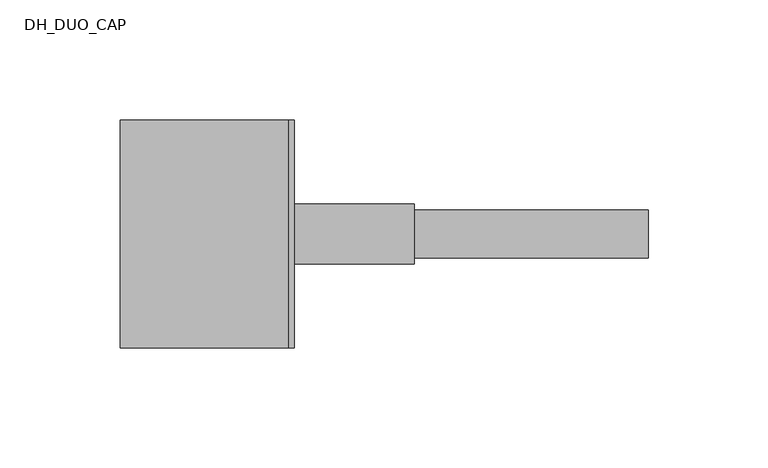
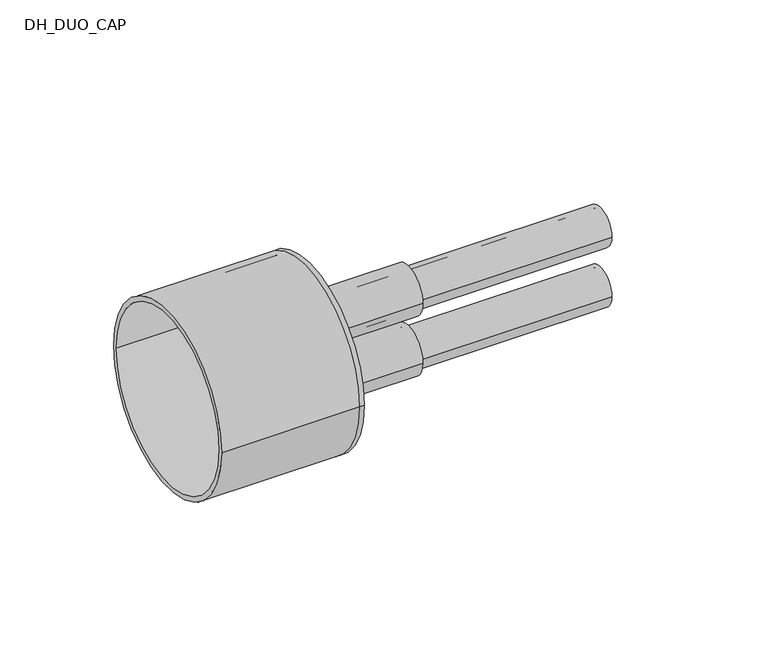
"""IFC4 building model written with IfcOpenShell, lengths in millimetres: pipe fitting geometry, DH_DUO_CAP : INSULPEX DUO 11 Heating - Schrink Cap."""

from ifc_helpers import new_model, si_unit, point, frame, frame_2d, origin, place, context, project, spatial, polyline, circle_curve, trimmed, segment, composite_curve, outline, extrude, source, transform, mapped, element, save
from ifc_brep_helpers import plane_surface, cylinder_surface, revolved_surface, advanced_brep


def dh_duo_cap_bee7bdcb(model_context):
    return source(origin(), model_context, "Body", "SolidModel", [
        extrude(outline(composite_curve([segment(trimmed(circle_curve(frame_2d((0.0, -16.0)), 10.0), [point((-10.0, -16.0))], [point((10.0, -16.0))], False, "CARTESIAN"), True, "CONTINUOUS"), segment(trimmed(circle_curve(frame_2d((0.0, -16.0)), 10.0), [point((10.0, -16.0))], [point((-10.0, -16.0))], False, "CARTESIAN"), True, "CONTINUOUS")], self_intersect=False), holes=[composite_curve([segment(trimmed(circle_curve(frame_2d((0.0, -16.0)), 8.1), [point((-8.1, -16.0))], [point((8.1, -16.0))], True, "CARTESIAN"), True, "CONTINUOUS"), segment(trimmed(circle_curve(frame_2d((0.0, -16.0)), 8.1), [point((8.1, -16.0))], [point((-8.1, -16.0))], True, "CARTESIAN"), True, "CONTINUOUS")], self_intersect=False)]), frame((0.0, 0.0, 0.0), z_axis=(1.0, 0.0, 0.0), x_axis=(0.0, 1.0, 0.0)), (0.0, 0.0, 1.0), 150.0),
        extrude(outline(composite_curve([segment(trimmed(circle_curve(frame_2d((0.0, 16.0)), 10.0), [point((-10.0, 16.0))], [point((10.0, 16.0))], False, "CARTESIAN"), True, "CONTINUOUS"), segment(trimmed(circle_curve(frame_2d((0.0, 16.0)), 10.0), [point((10.0, 16.0))], [point((-10.0, 16.0))], False, "CARTESIAN"), True, "CONTINUOUS")], self_intersect=False), holes=[composite_curve([segment(trimmed(circle_curve(frame_2d((0.0, 16.0)), 8.1), [point((-8.1, 16.0))], [point((8.1, 16.0))], True, "CARTESIAN"), True, "CONTINUOUS"), segment(trimmed(circle_curve(frame_2d((0.0, 16.0)), 8.1), [point((8.1, 16.0))], [point((-8.1, 16.0))], True, "CARTESIAN"), True, "CONTINUOUS")], self_intersect=False)]), frame((0.0, 0.0, 0.0), z_axis=(1.0, 0.0, 0.0), x_axis=(0.0, 1.0, 0.0)), (0.0, 0.0, 1.0), 150.0),
        advanced_brep(
        [(-70.0, -47.5, 0.0), (-70.0, 47.5, 0.0), (-70.0, -45.0, 0.0), (-70.0, 45.0, 0.0), (0.0, -45.0, 0.0), (0.0, 45.0, 0.0), (0.0, -47.5, 0.0), (0.0, 47.5, 0.0), (0.0, 10.0, 16.0), (0.0, -10.0, 16.0), (0.0, 10.0, -16.0), (0.0, -10.0, -16.0), (2.5, -47.5, 0.0), (2.5, 47.5, 0.0), (2.5, -10.0, 16.0), (2.5, 10.0, 16.0), (2.5, -10.0, -16.0), (2.5, 10.0, -16.0)],
        [
            (0, 1, circle_curve(frame((-70.0, 0.0, 0.0), z_axis=(-1.0, 0.0, 0.0), x_axis=(0.0, 1.0, 0.0)), 47.5)),
            (1, 0, circle_curve(frame((-70.0, 0.0, 0.0), z_axis=(-1.0, 0.0, 0.0), x_axis=(0.0, 1.0, 0.0)), 47.5)),
            (2, 3, circle_curve(frame((-70.0, 0.0, 0.0), z_axis=(1.0, 0.0, 0.0), x_axis=(0.0, 1.0, 0.0)), 45.0)),
            (3, 2, circle_curve(frame((-70.0, 0.0, 0.0), z_axis=(1.0, 0.0, 0.0), x_axis=(0.0, 1.0, 0.0)), 45.0)),
            (2, 4),
            (4, 5, circle_curve(frame((0.0, 0.0, 0.0), z_axis=(1.0, 0.0, 0.0), x_axis=(0.0, 1.0, 0.0)), 45.0)),
            (5, 3),
            (5, 4, circle_curve(frame((0.0, 0.0, 0.0), z_axis=(1.0, 0.0, 0.0), x_axis=(0.0, 1.0, 0.0)), 45.0)),
            (0, 6),
            (6, 7, circle_curve(frame((0.0, 0.0, 0.0), z_axis=(-1.0, 0.0, 0.0), x_axis=(0.0, 1.0, 0.0)), 47.5)),
            (7, 1),
            (7, 6, circle_curve(frame((0.0, 0.0, 0.0), z_axis=(-1.0, 0.0, 0.0), x_axis=(0.0, 1.0, 0.0)), 47.5)),
            (8, 9, circle_curve(frame((0.0, 0.0, 16.0), z_axis=(1.0, 0.0, 0.0), x_axis=(0.0, 1.0, 0.0)), 10.0)),
            (9, 8, circle_curve(frame((0.0, 0.0, 16.0), z_axis=(1.0, 0.0, 0.0), x_axis=(0.0, 1.0, 0.0)), 10.0)),
            (10, 11, circle_curve(frame((0.0, 0.0, -16.0), z_axis=(1.0, 0.0, 0.0), x_axis=(0.0, 1.0, 0.0)), 10.0)),
            (11, 10, circle_curve(frame((0.0, 0.0, -16.0), z_axis=(1.0, 0.0, 0.0), x_axis=(0.0, 1.0, 0.0)), 10.0)),
            (12, 13, circle_curve(frame((2.5, 0.0, 0.0), z_axis=(1.0, 0.0, 0.0), x_axis=(0.0, 1.0, 0.0)), 47.5)),
            (13, 12, circle_curve(frame((2.5, 0.0, 0.0), z_axis=(1.0, 0.0, 0.0), x_axis=(0.0, 1.0, 0.0)), 47.5)),
            (14, 15, circle_curve(frame((2.5, 0.0, 16.0), z_axis=(-1.0, 0.0, 0.0), x_axis=(0.0, 1.0, 0.0)), 10.0)),
            (15, 14, circle_curve(frame((2.5, 0.0, 16.0), z_axis=(-1.0, 0.0, 0.0), x_axis=(0.0, 1.0, 0.0)), 10.0)),
            (16, 17, circle_curve(frame((2.5, 0.0, -16.0), z_axis=(-1.0, 0.0, 0.0), x_axis=(0.0, 1.0, 0.0)), 10.0)),
            (17, 16, circle_curve(frame((2.5, 0.0, -16.0), z_axis=(-1.0, 0.0, 0.0), x_axis=(0.0, 1.0, 0.0)), 10.0)),
            (13, 7),
            (6, 12),
            (8, 15),
            (14, 9),
            (10, 17),
            (16, 11),
        ],
        [
            plane_surface(frame((-70.0, 0.0, 0.0), z_axis=(-1.0, 0.0, 0.0), x_axis=(0.0, 0.0, 1.0))),
            revolved_surface(polyline([(0.0, 45.0, 0.0), (-70.0, 45.0, 0.0)]), (-70.0, 0.0, 0.0), (1.0, 0.0, 0.0)),
            cylinder_surface(frame((-70.0, 0.0, 0.0), z_axis=(-1.0, 0.0, 0.0), x_axis=(0.0, 1.0, 0.0)), 47.5),
            plane_surface(frame((0.0, 0.0, 0.0), z_axis=(-1.0, 0.0, 0.0), x_axis=(0.0, 0.0, 1.0))),
            plane_surface(frame((2.5, 0.0, 0.0), z_axis=(1.0, 0.0, 0.0), x_axis=(0.0, 0.0, 1.0))),
            cylinder_surface(frame((0.0, 0.0, 0.0), z_axis=(-1.0, 0.0, 0.0), x_axis=(0.0, 1.0, 0.0)), 47.5),
            revolved_surface(polyline([(0.0, 10.0, 16.0), (2.5, 10.0, 16.0)]), (0.0, 0.0, 16.0), (-1.0, 0.0, 0.0)),
            revolved_surface(polyline([(0.0, 10.0, -16.0), (2.5, 10.0, -16.0)]), (0.0, 0.0, -16.0), (-1.0, 0.0, 0.0)),
        ],
        [
            (0, [[1, 2], [3, 4]]),
            (1, [[-3, 5, 6, 7]]),
            (1, [[-4, -7, 8, -5]]),
            (2, [[-1, 9, 10, 11]]),
            (2, [[-2, -11, 12, -9]]),
            (3, [[-6, -8], [13, 14], [15, 16]]),
            (4, [[17, 18], [19, 20], [21, 22]]),
            (5, [[-18, 23, -10, 24]]),
            (5, [[-17, -24, -12, -23]]),
            (6, [[25, -19, 26, -13]]),
            (6, [[-25, -14, -26, -20]]),
            (7, [[27, -21, 28, -15]]),
            (7, [[-27, -16, -28, -22]]),
        ],
    ),
        extrude(outline(composite_curve([segment(trimmed(circle_curve(frame_2d((0.0, -16.0)), 12.5), [point((-12.5, -16.0))], [point((12.5, -16.0))], False, "CARTESIAN"), True, "CONTINUOUS"), segment(trimmed(circle_curve(frame_2d((0.0, -16.0)), 12.5), [point((12.5, -16.0))], [point((-12.5, -16.0))], False, "CARTESIAN"), True, "CONTINUOUS")], self_intersect=False), holes=[composite_curve([segment(trimmed(circle_curve(frame_2d((0.0, -16.0)), 10.0), [point((-10.0, -16.0))], [point((10.0, -16.0))], True, "CARTESIAN"), True, "CONTINUOUS"), segment(trimmed(circle_curve(frame_2d((0.0, -16.0)), 10.0), [point((10.0, -16.0))], [point((-10.0, -16.0))], True, "CARTESIAN"), True, "CONTINUOUS")], self_intersect=False)]), frame((2.5, 0.0, 0.0), z_axis=(1.0, 0.0, 0.0), x_axis=(0.0, 1.0, 0.0)), (0.0, 0.0, 1.0), 50.0),
        extrude(outline(composite_curve([segment(trimmed(circle_curve(frame_2d((0.0, 16.0)), 12.5), [point((-12.5, 16.0))], [point((12.5, 16.0))], False, "CARTESIAN"), True, "CONTINUOUS"), segment(trimmed(circle_curve(frame_2d((0.0, 16.0)), 12.5), [point((12.5, 16.0))], [point((-12.5, 16.0))], False, "CARTESIAN"), True, "CONTINUOUS")], self_intersect=False), holes=[composite_curve([segment(trimmed(circle_curve(frame_2d((0.0, 16.0)), 10.0), [point((-10.0, 16.0))], [point((10.0, 16.0))], True, "CARTESIAN"), True, "CONTINUOUS"), segment(trimmed(circle_curve(frame_2d((0.0, 16.0)), 10.0), [point((10.0, 16.0))], [point((-10.0, 16.0))], True, "CARTESIAN"), True, "CONTINUOUS")], self_intersect=False)]), frame((2.5, 0.0, 0.0), z_axis=(1.0, 0.0, 0.0), x_axis=(0.0, 1.0, 0.0)), (0.0, 0.0, 1.0), 50.0),
    ])


if __name__ == "__main__":
    model = new_model("IFC4")
    model_context = context("Model", 3, world=origin())
    ifc_project = project(units=[si_unit("LENGTHUNIT", "METRE", prefix="MILLI")], contexts=[model_context])
    site = spatial("IfcSite", under=ifc_project)
    building = spatial("IfcBuilding", under=site)
    placement = place(None, origin())
    dh_duo_cap_shape = dh_duo_cap_bee7bdcb(model_context)
    element("IfcPipeFitting", 1, ObjectType="DH_DUO_CAP : INSULPEX DUO 11 Heating - Schrink Cap", at=placement, inside=building, context=model_context, shape_type="MappedRepresentation", body=[
        mapped(dh_duo_cap_shape, transform((0.0, 0.0, 0.0), x_axis=(1.0, 0.0, 0.0), y_axis=(0.0, 1.0, 0.0), z_axis=(0.0, 0.0, 1.0))),
    ])
    save(model, "model.ifc")
